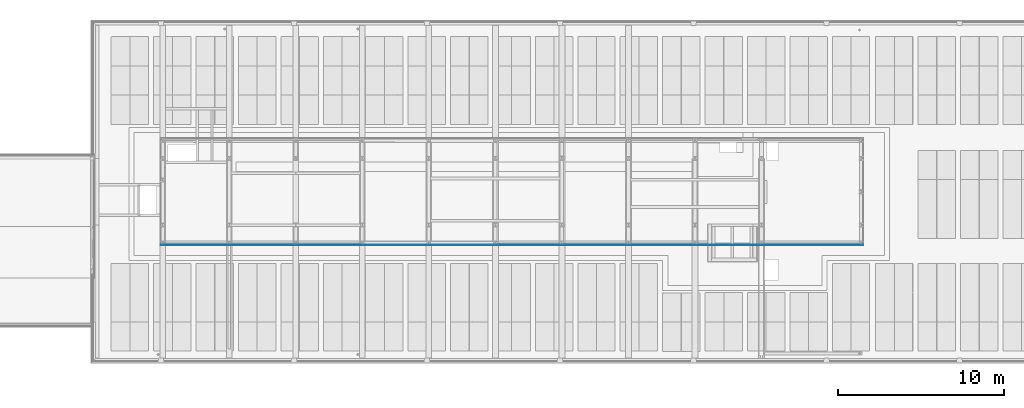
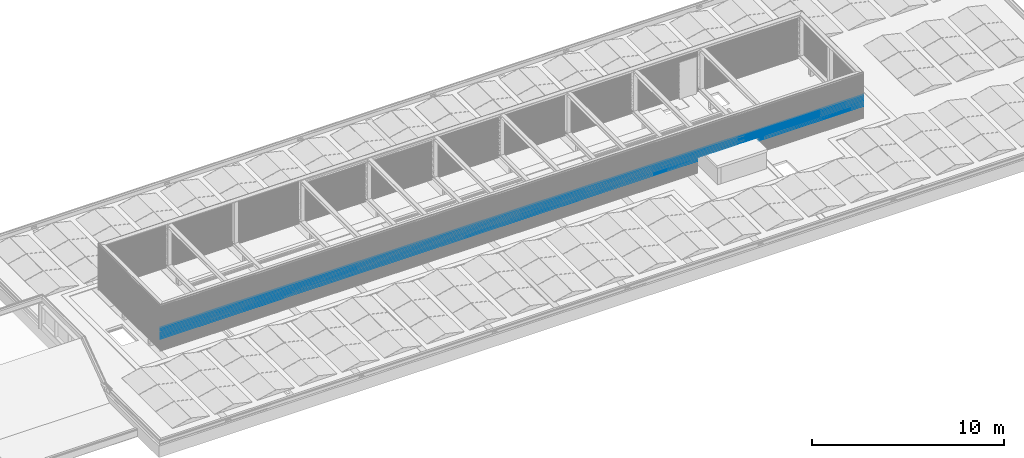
# One storey, part 31 of 63: 10 building element parts, 1 opening, 1 element without a shape of its own.
"""IFC2X3 building model written with IfcOpenShell, lengths in millimetres."""

from ifc_helpers import new_model, entity, si_unit, converted_unit, derived_unit, money_unit, direction, frame, origin_with_axes, place, context, subcontext, project, spatial, faceted_brep, material, type_object, element, aggregate, save


model = new_model("IFC2X3")

# Units and contexts
model_context = context("Model", 3, precision=0.01, world=origin_with_axes(), true_north=direction((0.0, 1.0)))
body_context = subcontext(model_context, "Body", "Model", "MODEL_VIEW")
ifc_project = project(units=[si_unit("LENGTHUNIT", "METRE", prefix="MILLI"), si_unit("AREAUNIT", "SQUARE_METRE"), si_unit("VOLUMEUNIT", "CUBIC_METRE"), converted_unit("PLANEANGLEUNIT", "DEGREE", entity("IfcPlaneAngleMeasure", 0.0174532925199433), si_unit("PLANEANGLEUNIT", "RADIAN"), dimensions=[0, 0, 0, 0, 0, 0, 0]), money_unit("EUR"), converted_unit("TIMEUNIT", "Year", entity("IfcTimeMeasure", 31557600.0), si_unit("TIMEUNIT", "SECOND"), dimensions=[0, 0, 1, 0, 0, 0, 0]), si_unit("MASSUNIT", "GRAM", prefix="KILO"), si_unit("THERMODYNAMICTEMPERATUREUNIT", "DEGREE_CELSIUS"), si_unit("LUMINOUSINTENSITYUNIT", "LUMEN"), si_unit("ENERGYUNIT", "JOULE", prefix="MEGA"), derived_unit("THERMALCONDUCTANCEUNIT", [(si_unit("POWERUNIT", "WATT"), 1), (si_unit("LENGTHUNIT", "METRE"), -1), (si_unit("THERMODYNAMICTEMPERATUREUNIT", "KELVIN"), -1)]), derived_unit("SPECIFICHEATCAPACITYUNIT", [(si_unit("ENERGYUNIT", "JOULE"), 1), (si_unit("MASSUNIT", "GRAM", prefix="KILO"), -1), (si_unit("THERMODYNAMICTEMPERATUREUNIT", "KELVIN"), -1)]), derived_unit("MASSDENSITYUNIT", [(si_unit("MASSUNIT", "GRAM", prefix="KILO"), 1), (si_unit("VOLUMEUNIT", "CUBIC_METRE"), -1)])], contexts=[model_context])

# Site, building, storey
site_placement = place(None, origin_with_axes())
site = spatial("IfcSite", under=ifc_project, at=site_placement, Name="<site naam>", CompositionType="ELEMENT")
building_placement = place(site_placement, origin_with_axes())
building = spatial("IfcBuilding", under=site, at=building_placement, Name="<Naam gebouw>", CompositionType="ELEMENT")
storey_placement = place(building_placement, frame((0.0, 0.0, 12770.0), z_axis=(0.0, 0.0, 1.0), x_axis=(1.0, 0.0, 0.0)))
storey = spatial("IfcBuildingStorey", under=building, at=storey_placement, Name="04 4e verdieping", CompositionType="ELEMENT", Elevation=12770.0)

# Wall, opening, building element parts
wall_type = type_object("IfcWallType", Name="Gevelbeplating golf 18 x 2900", PredefinedType="NOTDEFINED")
wall_placement = place(storey_placement, frame((15871.99992141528, 6781.999921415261, 299.9552842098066), z_axis=(0.0, 0.0, 1.0), x_axis=(1.0, 0.0, 0.0)))
wall = element("IfcWall", 1, at=wall_placement, inside=storey, type_object=wall_type, Name="47_Binnenwand_Gevelbeplating")
opening_placement = place(wall_placement, frame((-15871.99992141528, -6781.999921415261, -13069.95528420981), z_axis=(0.0, 0.0, 1.0), x_axis=(1.0, 0.0, 0.0)))
element("IfcOpeningElement", 2, at=opening_placement, cuts=wall, Name="47_Opening_", context=body_context, shape_type="Brep", body=[
    faceted_brep([(48150.00001112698, 6763.99976424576, 12770.0), (48150.00001112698, 6763.99976424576, 14059.65145375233), (48150.00001112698, 6818.000000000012, 14059.65145375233), (48150.00001112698, 6818.000000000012, 12770.0), (51850.00001112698, 6763.99976424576, 12770.0), (51850.00001112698, 6763.99976424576, 14059.65145375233), (51850.00001112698, 6818.000000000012, 14059.65145375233), (51850.00001112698, 6818.000000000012, 12770.0)], [[[0, 1, 2, 3]], [[0, 4, 5, 1]], [[1, 5, 6, 2]], [[3, 2, 6, 7]], [[4, 0, 3, 7]], [[5, 4, 7, 6]]]),
])
ifc_material = material(Name="gevelafwerking type 3 - Aluminium RAL1036")
building_element_part_1_placement = place(wall_placement, origin_with_axes())
building_element_part_1 = element("IfcBuildingElementPart", 3, at=building_element_part_1_placement, material=ifc_material, Name="gevelafwerking type 3 - Aluminium RAL1036", context=body_context, shape_type="Brep", body=[
    faceted_brep([(35516.99994541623, 15.62924144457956, 770.6844886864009), (35516.99994541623, 9.885817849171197, 778.3040781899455), (35593.00008687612, 9.885817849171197, 778.3040781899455), (35593.00008806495, 9.041562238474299, 779.4241211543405), (42247.79064798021, 9.041562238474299, 779.4241211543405), (42247.44495090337, 9.398096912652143, 778.9511196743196), (42241.45594474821, 15.62924144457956, 770.6844886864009), (35516.99994541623, 17.999978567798, 760.0000089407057), (35516.99994541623, 16.99997618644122, 760.0000089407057), (35516.99994541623, 14.77517566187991, 770.3656957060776), (35516.99994541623, 9.034760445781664, 778.2892229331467), (35593.00008687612, 9.034760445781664, 778.2892229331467), (35593.00008757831, 8.55523118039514, 778.9511196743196), (35593.00009672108, 2.257337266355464, 787.5682190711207), (35593.00010259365, 1.048900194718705, 793.1526633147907), (35593.00010259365, 2.010996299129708, 793.1694567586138), (35593.00009704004, 3.116456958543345, 787.8876744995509), (42253.811958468, 3.116456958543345, 787.8876744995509), (42253.74282987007, 3.34009908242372, 787.5682190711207), (42253.74282987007, 2.257337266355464, 787.5682190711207), (42247.44495090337, 8.55523118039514, 778.9511196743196), (42241.22498571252, 15.69997710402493, 770.3656957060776), (42241.22498571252, 14.77517566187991, 770.3656957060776), (42239.00018658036, 17.999978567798, 760.0000089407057), (42239.00018658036, 16.99997618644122, 760.0000089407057), (42256.00021191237, -2.143220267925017e-05, 797.9999791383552), (-5.474286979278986e-05, -2.143220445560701e-05, 797.9999791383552), (2.257327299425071, 2.257337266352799, 787.5682190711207), (33164.99985698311, 2.257337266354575, 787.5682190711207), (33164.99985111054, 1.048900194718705, 793.1526633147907), (33325.00016546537, 1.048900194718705, 793.1526633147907), (33325.0001595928, 2.257337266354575, 787.5682190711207), (34298.99986978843, 2.257337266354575, 787.5682190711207), (34298.99986682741, 1.648030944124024, 790.3839379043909), (34459.00008687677, 1.648030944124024, 790.3839379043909), (34459.00008391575, 2.257337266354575, 787.5682190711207), (35432.99979411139, 2.257337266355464, 787.5682190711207), (35432.99978823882, 1.048900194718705, 793.1526633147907), (35432.99978823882, 2.010996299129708, 793.1694567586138), (35432.99979379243, 3.116456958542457, 787.8876744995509), (34459.00008423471, 3.116456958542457, 787.8876744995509), (34459.00008687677, 2.590553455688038, 790.4003896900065), (34298.99986682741, 2.590553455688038, 790.4003896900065), (34298.99986946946, 3.116456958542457, 787.8876744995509), (33325.00015991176, 3.116456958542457, 787.8876744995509), (33325.00016546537, 2.010996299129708, 793.1694567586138), (33164.99985111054, 2.01099629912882, 793.1694567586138), (33164.99985666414, 3.116456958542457, 787.8876744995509), (2.188198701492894, 3.116456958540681, 787.8876744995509), (-5.474286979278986e-05, 0.9999785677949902, 797.9999791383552), (42256.00021191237, 0.9999785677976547, 797.9999791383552), (2.257327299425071, 3.340099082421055, 787.5682190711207), (33164.99986612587, 8.555231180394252, 778.9511196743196), (8.555206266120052, 8.555231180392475, 778.9511196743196), (33164.99986682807, 9.885817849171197, 778.3040781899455), (33164.99986563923, 9.04156223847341, 779.4241211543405), (33164.99986682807, 9.034760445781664, 778.2892229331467), (33325.00015093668, 9.04156223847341, 779.4241211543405), (33325.00014974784, 9.885817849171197, 778.3040781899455), (33325.00014974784, 9.034760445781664, 778.2892229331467), (33325.00015045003, 8.555231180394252, 778.9511196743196), (34298.99987893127, 8.555231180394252, 778.9511196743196), (34298.99988254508, 11.95348040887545, 775.5609860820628), (34298.99987844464, 9.04156223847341, 779.4241211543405), (34298.99988254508, 11.02307228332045, 775.5447457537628), (34459.00007525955, 9.04156223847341, 779.4241211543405), (34459.00007115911, 11.95348040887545, 775.5609860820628), (34459.00007115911, 11.02307228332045, 775.5447457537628), (34459.00007477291, 8.555231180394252, 778.9511196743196), (35432.99980325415, 8.55523118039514, 778.9511196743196), (35432.99980395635, 9.885817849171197, 778.3040781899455), (35432.99980276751, 9.041562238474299, 779.4241211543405), (35432.99980395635, 9.034760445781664, 778.2892229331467), (8.20950918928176, 9.041562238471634, 779.4241211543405), (8.555206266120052, 9.398096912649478, 778.9511196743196), (14.77517145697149, 14.77517566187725, 770.3656957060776), (33241.00000828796, 14.77517566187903, 770.3656957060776), (33241.00000828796, 9.034760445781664, 778.2892229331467), (33241.00000828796, 9.885817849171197, 778.3040781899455), (33241.00000828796, 15.62924144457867, 770.6844886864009), (14.54421242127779, 15.62924144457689, 770.6844886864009), (33249.00000828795, 15.62924144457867, 770.6844886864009), (33249.00000828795, 9.885817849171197, 778.3040781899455), (34374.99997685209, 11.95348040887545, 775.5609860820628), (34374.99997685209, 15.62924144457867, 770.6844886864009), (33249.00000828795, 9.034760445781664, 778.2892229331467), (33249.00000828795, 14.77517566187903, 770.3656957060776), (34374.99997685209, 14.77517566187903, 770.3656957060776), (34374.99997685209, 11.02307228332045, 775.5447457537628), (35508.99994541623, 9.885817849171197, 778.3040781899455), (35508.99994541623, 15.62924144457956, 770.6844886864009), (34382.99997685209, 15.62924144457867, 770.6844886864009), (34382.99997685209, 11.95348040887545, 775.5609860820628), (34382.99997685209, 11.02307228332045, 775.5447457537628), (34382.99997685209, 14.77517566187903, 770.3656957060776), (35508.99994541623, 14.77517566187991, 770.3656957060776), (35508.99994541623, 9.034760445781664, 778.2892229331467), (14.77517145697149, 15.69997710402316, 770.3656957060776), (33241.00000828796, 16.99997618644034, 760.0000089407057), (16.99997058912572, 16.99997618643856, 760.0000089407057), (33241.00000828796, 17.99997856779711, 760.0000089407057), (16.99997058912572, 17.99997856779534, 760.0000089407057), (33249.00000828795, 17.99997856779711, 760.0000089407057), (33249.00000828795, 16.99997618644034, 760.0000089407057), (34374.99997685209, 16.99997618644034, 760.0000089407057), (34374.99997685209, 17.99997856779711, 760.0000089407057), (35508.99994541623, 16.99997618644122, 760.0000089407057), (35508.99994541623, 17.999978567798, 760.0000089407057), (34382.99997685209, 17.99997856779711, 760.0000089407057), (34382.99997685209, 16.99997618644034, 760.0000089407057)], [[[0, 1, 2, 3, 4, 5, 6]], [[0, 7, 8, 9, 10, 1]], [[2, 1, 10, 11]], [[3, 2, 11, 12, 13, 14, 15, 16]], [[3, 16, 17, 18, 4]], [[5, 4, 18, 19, 20]], [[21, 6, 5, 20, 22]], [[7, 0, 6, 21, 23]], [[8, 7, 23, 24]], [[9, 8, 24, 22]], [[10, 9, 22, 20, 12, 11]], [[13, 12, 20, 19]], [[14, 13, 19, 25, 26, 27, 28, 29, 30, 31, 32, 33, 34, 35, 36, 37]], [[38, 15, 14, 37]], [[38, 39, 40, 41, 42, 43, 44, 45, 46, 47, 48, 49, 50, 17, 16, 15]], [[18, 17, 50, 25, 19]], [[24, 23, 21, 22]], [[50, 49, 26, 25]], [[49, 48, 51, 27, 26]], [[52, 28, 27, 53]], [[54, 55, 47, 46, 29, 28, 52, 56]], [[46, 45, 30, 29]], [[57, 58, 59, 60, 31, 30, 45, 44]], [[31, 60, 61, 32]], [[62, 63, 43, 42, 33, 32, 61, 64]], [[42, 41, 34, 33]], [[65, 66, 67, 68, 35, 34, 41, 40]], [[69, 36, 35, 68]], [[70, 71, 39, 38, 37, 36, 69, 72]], [[39, 71, 65, 40]], [[57, 44, 43, 63]], [[47, 55, 73, 51, 48]], [[51, 73, 74, 53, 27]], [[56, 52, 53, 75, 76, 77]], [[78, 79, 80, 74, 73, 55, 54]], [[78, 54, 56, 77]], [[81, 82, 58, 57, 63, 62, 83, 84]], [[58, 82, 85, 59]], [[85, 86, 87, 88, 64, 61, 60, 59]], [[83, 62, 64, 88]], [[89, 90, 91, 92, 66, 65, 71, 70]], [[66, 92, 93, 67]], [[72, 69, 68, 67, 93, 94, 95, 96]], [[89, 70, 72, 96]], [[74, 80, 97, 75, 53]], [[98, 76, 75, 99]], [[98, 100, 79, 78, 77, 76]], [[79, 100, 101, 97, 80]], [[81, 102, 103, 86, 85, 82]], [[104, 105, 84, 83, 88, 87]], [[102, 81, 84, 105]], [[86, 103, 104, 87]], [[106, 107, 90, 89, 96, 95]], [[90, 107, 108, 91]], [[91, 108, 109, 94, 93, 92]], [[106, 95, 94, 109]], [[75, 97, 101, 99]], [[100, 98, 99, 101]], [[103, 102, 105, 104]], [[107, 106, 109, 108]]]),
])
building_element_part_2_placement = place(wall_placement, origin_with_axes())
building_element_part_2 = element("IfcBuildingElementPart", 4, at=building_element_part_2_placement, material=ifc_material, Name="gevelafwerking type 3 - Aluminium RAL1036", context=body_context, shape_type="Brep", body=[
    faceted_brep([(42239.00018658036, 16.99997380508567, 835.9999925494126), (16.99997058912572, 16.999973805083, 835.9999925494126), (16.99997058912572, 17.99997618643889, 835.9999925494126), (42239.00018658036, 17.99997618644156, 835.9999925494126), (42241.22498571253, 14.77517328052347, 846.3656793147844), (14.77517145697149, 14.7751732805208, 846.3656793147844), (14.77517145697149, 15.6999783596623, 846.3656793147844), (14.54420054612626, 15.62923906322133, 846.6844886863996), (42241.45595662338, 15.62923906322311, 846.6844886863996), (42241.22498571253, 15.69997835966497, 846.3656793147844), (42247.44495090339, 8.555228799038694, 854.9511032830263), (8.555206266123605, 8.55522879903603, 854.9511032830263), (8.555206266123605, 9.398106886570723, 854.9511032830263), (8.209501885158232, 9.041559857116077, 855.4241211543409), (42247.79065528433, 9.041559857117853, 855.4241211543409), (42247.44495090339, 9.398106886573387, 854.9511032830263), (42253.74282519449, 2.257334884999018, 863.5682026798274), (2.257331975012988, 2.257334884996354, 863.5682026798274), (2.257331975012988, 3.340108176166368, 863.5682026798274), (2.18820450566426, 3.116454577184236, 863.8876744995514), (42253.81195266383, 3.1164545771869, 863.8876744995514), (42253.74282519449, 3.340108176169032, 863.5682026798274), (42256.00021191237, -2.381355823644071e-05, 874.00000596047), (-5.474286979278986e-05, -2.381356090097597e-05, 874.00000596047), (-5.474286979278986e-05, 0.999976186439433, 874.00000596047), (42256.00021191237, 0.9999761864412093, 874.00000596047)], [[[0, 1, 2, 3]], [[4, 5, 1, 0]], [[5, 6, 2, 1]], [[2, 6, 7, 8, 9, 3]], [[0, 3, 9, 4]], [[10, 11, 5, 4]], [[12, 7, 6, 5, 11]], [[7, 12, 13, 14, 15, 8]], [[9, 8, 15, 10, 4]], [[16, 17, 11, 10]], [[18, 13, 12, 11, 17]], [[13, 18, 19, 20, 21, 14]], [[15, 14, 21, 16, 10]], [[22, 23, 17, 16]], [[24, 19, 18, 17, 23]], [[20, 19, 24, 25]], [[21, 20, 25, 22, 16]], [[25, 24, 23, 22]]]),
])
building_element_part_3_placement = place(wall_placement, origin_with_axes())
building_element_part_3 = element("IfcBuildingElementPart", 5, at=building_element_part_3_placement, material=ifc_material, Name="gevelafwerking type 3 - Aluminium RAL1036", context=body_context, shape_type="Brep", body=[
    faceted_brep([(42239.00018658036, 16.99997142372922, 912.0000193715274), (16.99997058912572, 16.99997142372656, 912.0000193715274), (16.99997058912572, 17.99997380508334, 912.0000193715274), (42239.00018658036, 17.99997380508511, 912.0000193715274), (42241.22498571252, 14.77517089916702, 922.3657061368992), (14.77517145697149, 14.77517089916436, 922.3657061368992), (14.77517145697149, 15.69997002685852, 922.3657061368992), (14.54421881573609, 15.62923668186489, 922.6844886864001), (42241.45593835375, 15.62923668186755, 922.6844886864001), (42241.22498571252, 15.69997002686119, 922.3657061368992), (42247.44495090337, 8.55522641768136, 930.9510868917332), (8.5552062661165, 8.555226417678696, 930.9510868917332), (8.5552062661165, 9.39811686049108, 930.9510868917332), (8.209486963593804, 9.041557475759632, 931.4241211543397), (42247.79067020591, 9.041557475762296, 931.4241211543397), (42247.44495090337, 9.398116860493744, 930.9510868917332), (42253.74282987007, 2.257332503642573, 939.5682295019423), (2.257327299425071, 2.257332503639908, 939.5682295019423), (2.257327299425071, 3.340087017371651, 939.5682295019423), (2.188200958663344, 3.11645219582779, 939.8876744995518), (42253.81195621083, 3.116452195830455, 939.8876744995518), (42253.74282987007, 3.340087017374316, 939.5682295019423), (42256.00021191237, -2.619491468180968e-05, 949.9999895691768), (-5.474287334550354e-05, -2.619491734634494e-05, 949.9999895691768), (-5.474287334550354e-05, 0.9999738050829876, 949.9999895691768), (42256.00021191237, 0.9999738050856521, 949.9999895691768)], [[[0, 1, 2, 3]], [[4, 5, 1, 0]], [[5, 6, 2, 1]], [[2, 6, 7, 8, 9, 3]], [[0, 3, 9, 4]], [[10, 11, 5, 4]], [[12, 7, 6, 5, 11]], [[7, 12, 13, 14, 15, 8]], [[9, 8, 15, 10, 4]], [[16, 17, 11, 10]], [[18, 13, 12, 11, 17]], [[13, 18, 19, 20, 21, 14]], [[15, 14, 21, 16, 10]], [[22, 23, 17, 16]], [[24, 19, 18, 17, 23]], [[20, 19, 24, 25]], [[21, 20, 25, 22, 16]], [[25, 24, 23, 22]]]),
])
building_element_part_4_placement = place(wall_placement, origin_with_axes())
building_element_part_4 = element("IfcBuildingElementPart", 6, at=building_element_part_4_placement, material=ifc_material, Name="gevelafwerking type 3 - Aluminium RAL1036", context=body_context, shape_type="Brep", body=[
    faceted_brep([(42239.00022979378, 16.99996666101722, 1140.000013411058), (16.99992737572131, 16.99996666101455, 1140.000013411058), (16.99992737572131, 17.99996904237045, 1140.000013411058), (42239.00022979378, 17.99996904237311, 1140.000013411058), (42241.22502892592, 14.77516613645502, 1150.36570017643), (14.77512824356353, 14.77516613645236, 1150.36570017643), (14.77512824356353, 15.69996658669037, 1150.36570017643), (14.54417405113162, 15.62923191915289, 1150.6844886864), (42241.45598311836, 15.62923191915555, 1150.6844886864), (42241.22502892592, 15.69996658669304, 1150.36570017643), (42247.44495090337, 8.555221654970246, 1158.951124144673), (8.5552062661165, 8.555221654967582, 1158.951124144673), (8.5552062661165, 9.39808401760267, 1158.951124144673), (8.209512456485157, 9.04155271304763, 1159.424121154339), (42247.79064471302, 9.041552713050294, 1159.424121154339), (42247.44495090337, 9.398084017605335, 1158.951124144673), (42253.74282987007, 2.25732774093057, 1167.568223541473), (2.257327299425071, 2.257327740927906, 1167.568223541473), (2.257327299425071, 3.340086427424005, 1167.568223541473), (2.188199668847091, 3.116447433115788, 1167.887674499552), (42253.81195750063, 3.116447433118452, 1167.887674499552), (42253.74282987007, 3.34008642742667, 1167.568223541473), (42256.00021191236, -3.095762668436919e-05, 1177.999983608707), (-5.474286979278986e-05, -3.095762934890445e-05, 1177.999983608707), (-5.474286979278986e-05, 0.999969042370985, 1177.999983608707), (42256.00021191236, 0.9999690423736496, 1177.999983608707)], [[[0, 1, 2, 3]], [[4, 5, 1, 0]], [[5, 6, 2, 1]], [[2, 6, 7, 8, 9, 3]], [[0, 3, 9, 4]], [[10, 11, 5, 4]], [[12, 7, 6, 5, 11]], [[7, 12, 13, 14, 15, 8]], [[9, 8, 15, 10, 4]], [[16, 17, 11, 10]], [[18, 13, 12, 11, 17]], [[13, 18, 19, 20, 21, 14]], [[15, 14, 21, 16, 10]], [[22, 23, 17, 16]], [[24, 19, 18, 17, 23]], [[20, 19, 24, 25]], [[21, 20, 25, 22, 16]], [[25, 24, 23, 22]]]),
])
building_element_part_5_placement = place(wall_placement, origin_with_axes())
building_element_part_5 = element("IfcBuildingElementPart", 7, at=building_element_part_5_placement, material=ifc_material, Name="gevelafwerking type 3 - Aluminium RAL1036", context=body_context, shape_type="Brep", body=[
    faceted_brep([(42239.00022979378, 16.99996666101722, 1063.999986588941), (16.99992737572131, 16.99996666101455, 1063.999986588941), (16.99992737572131, 17.99996904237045, 1063.999986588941), (42239.00022979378, 17.99996904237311, 1063.999986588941), (42241.22502892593, 14.77516613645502, 1074.365673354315), (14.77512824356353, 14.77516613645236, 1074.365673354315), (14.77512824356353, 15.6999725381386, 1074.365673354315), (14.54415461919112, 15.62923191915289, 1074.684488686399), (42241.45600255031, 15.62923191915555, 1074.684488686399), (42241.22502892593, 15.69997253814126, 1074.365673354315), (42247.44495090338, 8.555221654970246, 1082.951097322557), (8.555206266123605, 8.55522165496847, 1082.951097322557), (8.555206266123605, 9.398104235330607, 1082.951097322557), (8.209497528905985, 9.04155271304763, 1083.424121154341), (42247.7906596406, 9.041552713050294, 1083.424121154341), (42247.44495090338, 9.398104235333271, 1082.951097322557), (42253.74282519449, 2.25732774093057, 1091.568196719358), (2.257331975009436, 2.257327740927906, 1091.568196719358), (2.257331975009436, 3.340105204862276, 1091.568196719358), (2.188203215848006, 3.116447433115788, 1091.887674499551), (42253.81195395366, 3.116447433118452, 1091.887674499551), (42253.74282519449, 3.34010520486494, 1091.568196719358), (42256.00021191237, -3.095762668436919e-05, 1102.0), (-5.474286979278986e-05, -3.095762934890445e-05, 1102.0), (-5.474286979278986e-05, 0.999969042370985, 1102.0), (42256.00021191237, 0.9999690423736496, 1102.0)], [[[0, 1, 2, 3]], [[4, 5, 1, 0]], [[5, 6, 2, 1]], [[2, 6, 7, 8, 9, 3]], [[0, 3, 9, 4]], [[10, 11, 5, 4]], [[12, 7, 6, 5, 11]], [[7, 12, 13, 14, 15, 8]], [[9, 8, 15, 10, 4]], [[16, 17, 11, 10]], [[18, 13, 12, 11, 17]], [[13, 18, 19, 20, 21, 14]], [[15, 14, 21, 16, 10]], [[22, 23, 17, 16]], [[24, 19, 18, 17, 23]], [[20, 19, 24, 25]], [[21, 20, 25, 22, 16]], [[25, 24, 23, 22]]]),
])
building_element_part_6_placement = place(wall_placement, origin_with_axes())
building_element_part_6 = element("IfcBuildingElementPart", 8, at=building_element_part_6_placement, material=ifc_material, Name="gevelafwerking type 3 - Aluminium RAL1036", context=body_context, shape_type="Brep", body=[
    faceted_brep([(42239.00018658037, 16.99996904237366, 988.0000029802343), (16.99997058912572, 16.999969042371, 988.0000029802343), (16.99997058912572, 17.99997142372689, 988.0000029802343), (42239.00018658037, 17.99997142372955, 988.0000029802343), (42241.22502892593, 14.77516851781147, 998.3656897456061), (14.77512824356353, 14.7751685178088, 998.3656897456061), (14.77512824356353, 15.69997128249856, 998.3656897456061), (14.54416649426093, 15.62923430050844, 998.6844886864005), (42241.45599067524, 15.62923430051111, 998.6844886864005), (42241.22502892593, 15.69997128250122, 998.3656897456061), (42247.44495090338, 8.555224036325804, 1006.95111371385), (8.5552062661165, 8.555224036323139, 1006.95111371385), (8.5552062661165, 9.398094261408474, 1006.95111371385), (8.209509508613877, 9.041555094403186, 1007.42412115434), (42247.79064766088, 9.041555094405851, 1007.42412115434), (42247.44495090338, 9.398094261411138, 1006.95111371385), (42253.74282519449, 2.257330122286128, 1015.568213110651), (2.257331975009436, 2.257330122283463, 1015.568213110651), (2.257331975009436, 3.340096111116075, 1015.568213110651), (2.188211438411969, 3.116449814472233, 1015.887674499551), (42253.81194573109, 3.116449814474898, 1015.887674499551), (42253.74282519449, 3.34009611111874, 1015.568213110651), (42256.00020723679, -2.857627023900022e-05, 1026.000016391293), (-5.006730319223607e-05, -2.857627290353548e-05, 1026.000016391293), (-5.006730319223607e-05, 0.9999714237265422, 1026.000016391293), (42256.00020723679, 0.9999714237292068, 1026.000016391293)], [[[0, 1, 2, 3]], [[4, 5, 1, 0]], [[5, 6, 2, 1]], [[2, 6, 7, 8, 9, 3]], [[0, 3, 9, 4]], [[10, 11, 5, 4]], [[12, 7, 6, 5, 11]], [[7, 12, 13, 14, 15, 8]], [[9, 8, 15, 10, 4]], [[16, 17, 11, 10]], [[18, 13, 12, 11, 17]], [[13, 18, 19, 20, 21, 14]], [[15, 14, 21, 16, 10]], [[22, 23, 17, 16]], [[24, 19, 18, 17, 23]], [[20, 19, 24, 25]], [[21, 20, 25, 22, 16]], [[25, 24, 23, 22]]]),
])
building_element_part_7_placement = place(wall_placement, origin_with_axes())
building_element_part_7 = element("IfcBuildingElementPart", 9, at=building_element_part_7_placement, material=ifc_material, Name="gevelafwerking type 3 - Aluminium RAL1036", context=body_context, shape_type="Brep", body=[
    faceted_brep([(42239.00022979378, 16.99996427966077, 1215.999997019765), (16.99992737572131, 16.99996427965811, 1215.999997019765), (16.99992737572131, 17.99996666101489, 1215.999997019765), (42239.00022979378, 17.99996666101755, 1215.999997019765), (42241.22502892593, 14.77516375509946, 1226.365683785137), (14.77512824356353, 14.7751637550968, 1226.365683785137), (14.77512824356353, 15.69996784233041, 1226.365683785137), (14.54416217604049, 15.62922953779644, 1226.6844886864), (42241.45599499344, 15.62922953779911, 1226.6844886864), (42241.22502892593, 15.69996784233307, 1226.365683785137), (42247.44495090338, 8.55521927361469, 1234.95110775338), (8.5552062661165, 8.555219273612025, 1234.95110775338), (8.5552062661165, 9.398093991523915, 1234.95110775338), (8.20950515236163, 9.041550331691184, 1235.42412115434), (42247.79065201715, 9.041550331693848, 1235.42412115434), (42247.44495090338, 9.39809399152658, 1234.95110775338), (42253.74282519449, 2.257325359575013, 1243.568207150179), (2.257331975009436, 2.257325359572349, 1243.568207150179), (2.257331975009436, 3.340095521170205, 1243.568207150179), (2.188210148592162, 3.11644505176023, 1243.887674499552), (42253.81194702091, 3.116445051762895, 1243.887674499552), (42253.74282519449, 3.34009552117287, 1243.568207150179), (42256.0002072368, -3.333898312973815e-05, 1254.000010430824), (-5.006730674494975e-05, -3.333898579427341e-05, 1254.000010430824), (-5.006730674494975e-05, 0.9999666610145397, 1254.000010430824), (42256.0002072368, 0.9999666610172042, 1254.000010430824)], [[[0, 1, 2, 3]], [[4, 5, 1, 0]], [[5, 6, 2, 1]], [[2, 6, 7, 8, 9, 3]], [[0, 3, 9, 4]], [[10, 11, 5, 4]], [[12, 7, 6, 5, 11]], [[7, 12, 13, 14, 15, 8]], [[9, 8, 15, 10, 4]], [[16, 17, 11, 10]], [[18, 13, 12, 11, 17]], [[13, 18, 19, 20, 21, 14]], [[15, 14, 21, 16, 10]], [[22, 23, 17, 16]], [[24, 19, 18, 17, 23]], [[20, 19, 24, 25]], [[21, 20, 25, 22, 16]], [[25, 24, 23, 22]]]),
])
building_element_part_8_placement = place(wall_placement, origin_with_axes())
building_element_part_8 = element("IfcBuildingElementPart", 10, at=building_element_part_8_placement, material=ifc_material, Name="gevelafwerking type 3 - Aluminium RAL1036", context=body_context, shape_type="Brep", body=[
    faceted_brep([(42239.00022979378, 16.99995951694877, 1368.000007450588), (16.99992737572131, 16.99995951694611, 1368.000007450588), (16.99992737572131, 17.999961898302, 1368.000007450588), (42239.00022979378, 17.99996189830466, 1368.000007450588), (42241.22502892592, 14.77515899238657, 1378.36569421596), (14.77512824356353, 14.77515899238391, 1378.36569421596), (14.77512824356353, 15.69996076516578, 1378.36569421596), (14.54416973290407, 15.62922477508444, 1378.6844886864), (42241.45598743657, 15.6292247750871, 1378.6844886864), (42241.22502892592, 15.69996076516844, 1378.36569421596), (42247.44495090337, 8.55521451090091, 1386.951118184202), (8.5552062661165, 8.555214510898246, 1386.951118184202), (8.5552062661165, 9.398081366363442, 1386.951118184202), (8.209505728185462, 9.041545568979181, 1387.424121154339), (42247.7906514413, 9.041545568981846, 1387.424121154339), (42247.44495090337, 9.398081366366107, 1386.951118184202), (42253.74287308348, 2.257320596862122, 1395.568217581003), (2.257284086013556, 2.257320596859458, 1395.568217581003), (2.257284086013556, 3.340083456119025, 1395.568217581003), (2.188156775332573, 3.11644028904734, 1395.887674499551), (42253.81200039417, 3.116440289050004, 1395.887674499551), (42253.74287308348, 3.34008345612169, 1395.568217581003), (42256.00021191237, -3.810169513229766e-05, 1406.000020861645), (-5.474286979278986e-05, -3.810169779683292e-05, 1406.000020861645), (-5.474286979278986e-05, 0.9999618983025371, 1406.000020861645), (42256.00021191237, 0.9999618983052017, 1406.000020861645)], [[[0, 1, 2, 3]], [[4, 5, 1, 0]], [[5, 6, 2, 1]], [[2, 6, 7, 8, 9, 3]], [[0, 3, 9, 4]], [[10, 11, 5, 4]], [[12, 7, 6, 5, 11]], [[7, 12, 13, 14, 15, 8]], [[9, 8, 15, 10, 4]], [[16, 17, 11, 10]], [[18, 13, 12, 11, 17]], [[13, 18, 19, 20, 21, 14]], [[15, 14, 21, 16, 10]], [[22, 23, 17, 16]], [[24, 19, 18, 17, 23]], [[20, 19, 24, 25]], [[21, 20, 25, 22, 16]], [[25, 24, 23, 22]]]),
])
building_element_part_9_placement = place(wall_placement, origin_with_axes())
building_element_part_9 = element("IfcBuildingElementPart", 11, at=building_element_part_9_placement, material=ifc_material, Name="gevelafwerking type 3 - Aluminium RAL1036", context=body_context, shape_type="Brep", body=[
    faceted_brep([(42239.00022979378, 16.99996189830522, 1291.999980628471), (16.99992737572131, 16.99996189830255, 1291.999980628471), (16.99992737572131, 17.99996427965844, 1291.999980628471), (42239.00022979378, 17.99996427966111, 1291.999980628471), (42241.22502892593, 14.77516137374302, 1302.365667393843), (14.77512824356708, 14.77516137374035, 1302.365667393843), (14.77512824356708, 15.69996909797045, 1302.365667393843), (14.54415030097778, 15.62922715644, 1302.684488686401), (42241.45600686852, 15.62922715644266, 1302.684488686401), (42241.22502892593, 15.69996909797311, 1302.365667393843), (42247.44495090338, 8.555216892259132, 1310.951091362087), (8.555206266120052, 8.555216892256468, 1310.951091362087), (8.555206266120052, 9.39810396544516, 1310.951091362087), (8.209486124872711, 9.041547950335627, 1311.424121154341), (42247.79067104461, 9.041547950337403, 1311.424121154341), (42247.44495090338, 9.398103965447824, 1310.951091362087), (42253.74287308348, 2.257322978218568, 1319.568190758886), (2.257284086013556, 2.257322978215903, 1319.568190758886), (2.257284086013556, 3.34010461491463, 1319.568190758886), (2.188150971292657, 3.116442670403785, 1319.887674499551), (42253.8120061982, 3.11644267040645, 1319.887674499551), (42253.74287308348, 3.340104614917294, 1319.568190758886), (42256.00021191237, -3.57203386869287e-05, 1329.999994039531), (-5.474287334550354e-05, -3.572034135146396e-05, 1329.999994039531), (-5.474287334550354e-05, 0.9999642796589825, 1329.999994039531), (42256.00021191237, 0.9999642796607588, 1329.999994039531)], [[[0, 1, 2, 3]], [[4, 5, 1, 0]], [[5, 6, 2, 1]], [[2, 6, 7, 8, 9, 3]], [[0, 3, 9, 4]], [[10, 11, 5, 4]], [[12, 7, 6, 5, 11]], [[7, 12, 13, 14, 15, 8]], [[9, 8, 15, 10, 4]], [[16, 17, 11, 10]], [[18, 13, 12, 11, 17]], [[13, 18, 19, 20, 21, 14]], [[15, 14, 21, 16, 10]], [[22, 23, 17, 16]], [[24, 19, 18, 17, 23]], [[20, 19, 24, 25]], [[21, 20, 25, 22, 16]], [[25, 24, 23, 22]]]),
])
building_element_part_10_placement = place(wall_placement, origin_with_axes())
building_element_part_10 = element("IfcBuildingElementPart", 12, at=building_element_part_10_placement, material=ifc_material, Name="gevelafwerking type 3 - Aluminium RAL1036", context=body_context, shape_type="Brep", body=[
    faceted_brep([(42239.00022979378, 16.99995713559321, 1443.999991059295), (16.99992737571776, 16.99995713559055, 1443.999991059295), (16.99992737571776, 17.99995951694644, 1443.999991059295), (42239.00022979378, 17.9999595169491, 1443.999991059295), (42241.22502892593, 14.77515661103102, 1454.365677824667), (14.77512824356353, 14.77515661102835, 1454.365677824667), (14.77512824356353, 15.69996202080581, 1454.365677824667), (14.54415785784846, 15.62922239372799, 1454.6844886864), (42241.45599931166, 15.62922239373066, 1454.6844886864), (42241.22502892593, 15.69996202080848, 1454.365677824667), (42247.44495090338, 8.555212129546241, 1462.951101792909), (8.555206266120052, 8.555212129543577, 1462.951101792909), (8.555206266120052, 9.398091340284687, 1462.951101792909), (8.2094937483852, 9.041543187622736, 1463.42412115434), (42247.7906634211, 9.0415431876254, 1463.42412115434), (42247.44495090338, 9.398091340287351, 1462.951101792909), (42253.74287308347, 2.257318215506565, 1471.56820118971), (2.257284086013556, 2.257318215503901, 1471.56820118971), (2.257284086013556, 3.340092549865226, 1471.56820118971), (2.18815322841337, 3.116437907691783, 1471.887674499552), (42253.81200394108, 3.116437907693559, 1471.887674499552), (42253.74287308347, 3.34009254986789, 1471.56820118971), (42256.00021191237, -4.048305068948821e-05, 1482.000004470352), (-5.474287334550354e-05, -4.048305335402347e-05, 1482.000004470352), (-5.474287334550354e-05, 0.9999595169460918, 1482.000004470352), (42256.00021191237, 0.9999595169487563, 1482.000004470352)], [[[0, 1, 2, 3]], [[4, 5, 1, 0]], [[5, 6, 2, 1]], [[2, 6, 7, 8, 9, 3]], [[0, 3, 9, 4]], [[10, 11, 5, 4]], [[12, 7, 6, 5, 11]], [[7, 12, 13, 14, 15, 8]], [[9, 8, 15, 10, 4]], [[16, 17, 11, 10]], [[18, 13, 12, 11, 17]], [[13, 18, 19, 20, 21, 14]], [[15, 14, 21, 16, 10]], [[22, 23, 17, 16]], [[24, 19, 18, 17, 23]], [[20, 19, 24, 25]], [[21, 20, 25, 22, 16]], [[25, 24, 23, 22]]]),
])
aggregate(wall, [building_element_part_1, building_element_part_2, building_element_part_3, building_element_part_4, building_element_part_5, building_element_part_6, building_element_part_7, building_element_part_8, building_element_part_9, building_element_part_10])

save(model, "model.ifc")
